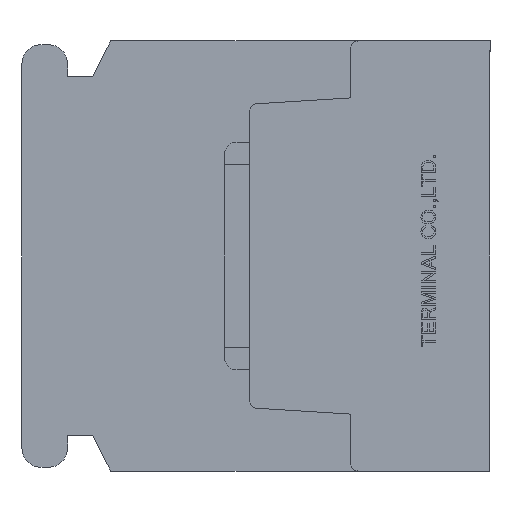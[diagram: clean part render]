
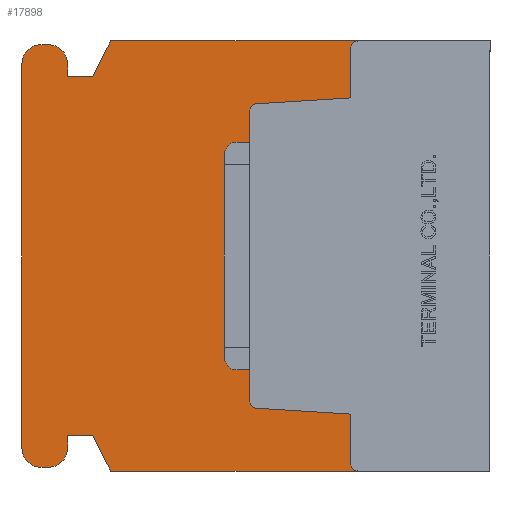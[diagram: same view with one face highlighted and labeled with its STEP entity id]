
A CAD part, left-side view. The second image highlights one B-rep face of the part: STEP entity #17898.
In plain terms, the highlighted planar face has unit normal (-1, 0, 0).
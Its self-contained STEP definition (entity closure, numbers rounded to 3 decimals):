
#1129=CIRCLE('',#19110,0.3);
#1131=CIRCLE('',#19114,0.3);
#1133=CIRCLE('',#19119,0.3);
#1135=CIRCLE('',#19122,0.3);
#1144=CIRCLE('',#19279,0.75);
#1145=CIRCLE('',#19280,0.75);
#1146=CIRCLE('',#19281,0.75);
#1147=CIRCLE('',#19282,0.75);
#1733=VERTEX_POINT('',#25497);
#1734=VERTEX_POINT('',#25499);
#1765=VERTEX_POINT('',#25565);
#1766=VERTEX_POINT('',#25567);
#2539=VERTEX_POINT('',#28217);
#2540=VERTEX_POINT('',#28218);
#2543=VERTEX_POINT('',#28226);
#2557=VERTEX_POINT('',#28256);
#2559=VERTEX_POINT('',#28262);
#2561=VERTEX_POINT('',#28268);
#2563=VERTEX_POINT('',#28274);
#2565=VERTEX_POINT('',#28283);
#2912=VERTEX_POINT('',#29825);
#2913=VERTEX_POINT('',#29827);
#2914=VERTEX_POINT('',#29829);
#2915=VERTEX_POINT('',#29831);
#2916=VERTEX_POINT('',#29833);
#2917=VERTEX_POINT('',#29835);
#2918=VERTEX_POINT('',#29837);
#2919=VERTEX_POINT('',#29839);
#2920=VERTEX_POINT('',#29841);
#2921=VERTEX_POINT('',#29843);
#2922=VERTEX_POINT('',#29845);
#2923=VERTEX_POINT('',#29847);
#3577=VECTOR('',#20388,1.);
#3610=VECTOR('',#20425,1.);
#4358=VECTOR('',#22540,1.);
#4375=VECTOR('',#22564,1.);
#4379=VECTOR('',#22575,1.);
#4382=VECTOR('',#22579,1.);
#4386=VECTOR('',#22596,1.);
#4799=VECTOR('',#23174,1.);
#4800=VECTOR('',#23175,1.);
#4801=VECTOR('',#23176,1.);
#4802=VECTOR('',#23179,1.);
#4803=VECTOR('',#23182,1.);
#4804=VECTOR('',#23185,1.);
#4805=VECTOR('',#23188,1.);
#4806=VECTOR('',#23189,1.);
#4807=VECTOR('',#23190,1.);
#5451=LINE('',#25498,#3577);
#5484=LINE('',#25566,#3610);
#6232=LINE('',#28216,#4358);
#6249=LINE('',#28255,#4375);
#6253=LINE('',#28267,#4379);
#6256=LINE('',#28273,#4382);
#6260=LINE('',#28288,#4386);
#6673=LINE('',#29824,#4799);
#6674=LINE('',#29826,#4800);
#6675=LINE('',#29828,#4801);
#6676=LINE('',#29832,#4802);
#6677=LINE('',#29836,#4803);
#6678=LINE('',#29840,#4804);
#6679=LINE('',#29844,#4805);
#6680=LINE('',#29846,#4806);
#6681=LINE('',#29848,#4807);
#7516=EDGE_CURVE('',#1733,#1734,#5451,.T.);
#7550=EDGE_CURVE('',#1765,#1766,#5484,.T.);
#8735=EDGE_CURVE('',#2539,#2540,#6232,.T.);
#8739=EDGE_CURVE('',#2543,#2539,#1129,.T.);
#8754=EDGE_CURVE('',#2557,#2543,#6249,.T.);
#8757=EDGE_CURVE('',#2559,#2557,#1131,.T.);
#8760=EDGE_CURVE('',#2561,#2559,#6253,.T.);
#8763=EDGE_CURVE('',#2563,#2561,#6256,.T.);
#8766=EDGE_CURVE('',#1734,#2563,#1133,.T.);
#8768=EDGE_CURVE('',#2565,#1765,#1135,.T.);
#8771=EDGE_CURVE('',#2540,#2565,#6260,.T.);
#9295=EDGE_CURVE('',#2912,#1733,#6673,.T.);
#9296=EDGE_CURVE('',#2913,#2912,#6674,.T.);
#9297=EDGE_CURVE('',#2914,#2913,#6675,.T.);
#9298=EDGE_CURVE('',#2915,#2914,#1144,.T.);
#9299=EDGE_CURVE('',#2916,#2915,#6676,.T.);
#9300=EDGE_CURVE('',#2917,#2916,#1145,.T.);
#9301=EDGE_CURVE('',#2918,#2917,#6677,.T.);
#9302=EDGE_CURVE('',#2919,#2918,#1146,.T.);
#9303=EDGE_CURVE('',#2920,#2919,#6678,.T.);
#9304=EDGE_CURVE('',#2921,#2920,#1147,.T.);
#9305=EDGE_CURVE('',#2922,#2921,#6679,.T.);
#9306=EDGE_CURVE('',#2923,#2922,#6680,.T.);
#9307=EDGE_CURVE('',#1766,#2923,#6681,.T.);
#14494=ORIENTED_EDGE('',*,*,#8766,.F.);
#14495=ORIENTED_EDGE('',*,*,#7516,.F.);
#14496=ORIENTED_EDGE('',*,*,#9295,.F.);
#14497=ORIENTED_EDGE('',*,*,#9296,.F.);
#14498=ORIENTED_EDGE('',*,*,#9297,.F.);
#14499=ORIENTED_EDGE('',*,*,#9298,.F.);
#14500=ORIENTED_EDGE('',*,*,#9299,.F.);
#14501=ORIENTED_EDGE('',*,*,#9300,.F.);
#14502=ORIENTED_EDGE('',*,*,#9301,.F.);
#14503=ORIENTED_EDGE('',*,*,#9302,.F.);
#14504=ORIENTED_EDGE('',*,*,#9303,.F.);
#14505=ORIENTED_EDGE('',*,*,#9304,.F.);
#14506=ORIENTED_EDGE('',*,*,#9305,.F.);
#14507=ORIENTED_EDGE('',*,*,#9306,.F.);
#14508=ORIENTED_EDGE('',*,*,#9307,.F.);
#14509=ORIENTED_EDGE('',*,*,#7550,.F.);
#14510=ORIENTED_EDGE('',*,*,#8768,.F.);
#14511=ORIENTED_EDGE('',*,*,#8771,.F.);
#14512=ORIENTED_EDGE('',*,*,#8735,.F.);
#14513=ORIENTED_EDGE('',*,*,#8739,.F.);
#14514=ORIENTED_EDGE('',*,*,#8754,.F.);
#14515=ORIENTED_EDGE('',*,*,#8757,.F.);
#14516=ORIENTED_EDGE('',*,*,#8760,.F.);
#14517=ORIENTED_EDGE('',*,*,#8763,.F.);
#15749=EDGE_LOOP('',(#14494,#14495,#14496,#14497,#14498,#14499,#14500,#14501,
#14502,#14503,#14504,#14505,#14506,#14507,#14508,#14509,#14510,#14511,#14512,
#14513,#14514,#14515,#14516,#14517));
#16881=FACE_BOUND('',#15749,.T.);
#17898=ADVANCED_FACE('',(#16881),#30674,.F.);
#19110=AXIS2_PLACEMENT_3D('',#28225,#22546,#22547);
#19114=AXIS2_PLACEMENT_3D('',#28261,#22569,#22570);
#19119=AXIS2_PLACEMENT_3D('',#28279,#22584,#22585);
#19122=AXIS2_PLACEMENT_3D('',#28282,#22590,#22591);
#19278=AXIS2_PLACEMENT_3D('',#29823,#23173,$);
#19279=AXIS2_PLACEMENT_3D('',#29830,#23177,#23178);
#19280=AXIS2_PLACEMENT_3D('',#29834,#23180,#23181);
#19281=AXIS2_PLACEMENT_3D('',#29838,#23183,#23184);
#19282=AXIS2_PLACEMENT_3D('',#29842,#23186,#23187);
#20388=DIRECTION('',(0.,-1.,0.));
#20425=DIRECTION('',(0.,1.,0.));
#22540=DIRECTION('',(0.,-0.998,-0.062));
#22546=DIRECTION('',(-1.,0.,0.));
#22547=DIRECTION('',(0.,0.,-0.3));
#22564=DIRECTION('',(0.,0.,-1.));
#22569=DIRECTION('',(-1.,0.,0.));
#22570=DIRECTION('',(0.,0.,-0.3));
#22575=DIRECTION('',(0.,0.998,-0.062));
#22579=DIRECTION('',(0.,0.,-1.));
#22584=DIRECTION('',(-1.,0.,0.));
#22585=DIRECTION('',(0.,0.,-0.3));
#22590=DIRECTION('',(-1.,0.,0.));
#22591=DIRECTION('',(0.,0.,-0.3));
#22596=DIRECTION('',(0.,0.,-1.));
#23173=DIRECTION('',(1.,0.,0.));
#23174=DIRECTION('',(0.,-0.447,0.894));
#23175=DIRECTION('',(0.,-1.,0.));
#23176=DIRECTION('',(0.,0.,-1.));
#23177=DIRECTION('',(1.,0.,0.));
#23178=DIRECTION('',(0.,0.,-0.75));
#23179=DIRECTION('',(0.,-1.,0.));
#23180=DIRECTION('',(1.,0.,0.));
#23181=DIRECTION('',(0.,0.,-0.75));
#23182=DIRECTION('',(0.,0.,1.));
#23183=DIRECTION('',(1.,0.,0.));
#23184=DIRECTION('',(0.,0.,-0.75));
#23185=DIRECTION('',(0.,1.,0.));
#23186=DIRECTION('',(1.,0.,0.));
#23187=DIRECTION('',(0.,0.,-0.75));
#23188=DIRECTION('',(0.,0.,-1.));
#23189=DIRECTION('',(0.,1.,0.));
#23190=DIRECTION('',(0.,0.447,0.894));
#25497=CARTESIAN_POINT('',(0.,15.,8.5));
#25498=CARTESIAN_POINT('',(0.,15.,8.5));
#25499=CARTESIAN_POINT('',(0.,5.2,8.5));
#25565=CARTESIAN_POINT('',(0.,5.2,-8.5));
#25566=CARTESIAN_POINT('',(0.,0.,-8.5));
#25567=CARTESIAN_POINT('',(0.,15.,-8.5));
#28216=CARTESIAN_POINT('',(0.,9.219,-6.018));
#28217=CARTESIAN_POINT('',(0.,9.219,-6.018));
#28218=CARTESIAN_POINT('',(0.,5.5,-6.25));
#28225=CARTESIAN_POINT('',(0.,9.2,-5.718));
#28226=CARTESIAN_POINT('',(0.,9.5,-5.718));
#28255=CARTESIAN_POINT('',(0.,9.5,5.718));
#28256=CARTESIAN_POINT('',(0.,9.5,5.718));
#28261=CARTESIAN_POINT('',(0.,9.2,5.718));
#28262=CARTESIAN_POINT('',(0.,9.219,6.018));
#28267=CARTESIAN_POINT('',(0.,5.5,6.25));
#28268=CARTESIAN_POINT('',(0.,5.5,6.25));
#28273=CARTESIAN_POINT('',(0.,5.5,8.2));
#28274=CARTESIAN_POINT('',(0.,5.5,8.2));
#28279=CARTESIAN_POINT('',(0.,5.2,8.2));
#28282=CARTESIAN_POINT('',(0.,5.2,-8.2));
#28283=CARTESIAN_POINT('',(0.,5.5,-8.2));
#28288=CARTESIAN_POINT('',(0.,5.5,-6.25));
#29823=CARTESIAN_POINT('',(0.,9.463,0.));
#29824=CARTESIAN_POINT('',(0.,15.7,7.1));
#29825=CARTESIAN_POINT('',(0.,15.7,7.1));
#29826=CARTESIAN_POINT('',(0.,16.7,7.1));
#29827=CARTESIAN_POINT('',(0.,16.7,7.1));
#29828=CARTESIAN_POINT('',(0.,16.7,7.6));
#29829=CARTESIAN_POINT('',(0.,16.7,7.6));
#29830=CARTESIAN_POINT('',(0.,17.45,7.6));
#29831=CARTESIAN_POINT('',(0.,17.45,8.35));
#29832=CARTESIAN_POINT('',(0.,17.75,8.35));
#29833=CARTESIAN_POINT('',(0.,17.75,8.35));
#29834=CARTESIAN_POINT('',(0.,17.75,7.6));
#29835=CARTESIAN_POINT('',(0.,18.5,7.6));
#29836=CARTESIAN_POINT('',(0.,18.5,-7.6));
#29837=CARTESIAN_POINT('',(0.,18.5,-7.6));
#29838=CARTESIAN_POINT('',(0.,17.75,-7.6));
#29839=CARTESIAN_POINT('',(0.,17.75,-8.35));
#29840=CARTESIAN_POINT('',(0.,17.45,-8.35));
#29841=CARTESIAN_POINT('',(0.,17.45,-8.35));
#29842=CARTESIAN_POINT('',(0.,17.45,-7.6));
#29843=CARTESIAN_POINT('',(0.,16.7,-7.6));
#29844=CARTESIAN_POINT('',(0.,16.7,-7.1));
#29845=CARTESIAN_POINT('',(0.,16.7,-7.1));
#29846=CARTESIAN_POINT('',(0.,15.7,-7.1));
#29847=CARTESIAN_POINT('',(0.,15.7,-7.1));
#29848=CARTESIAN_POINT('',(0.,15.,-8.5));
#30674=PLANE('',#19278);
